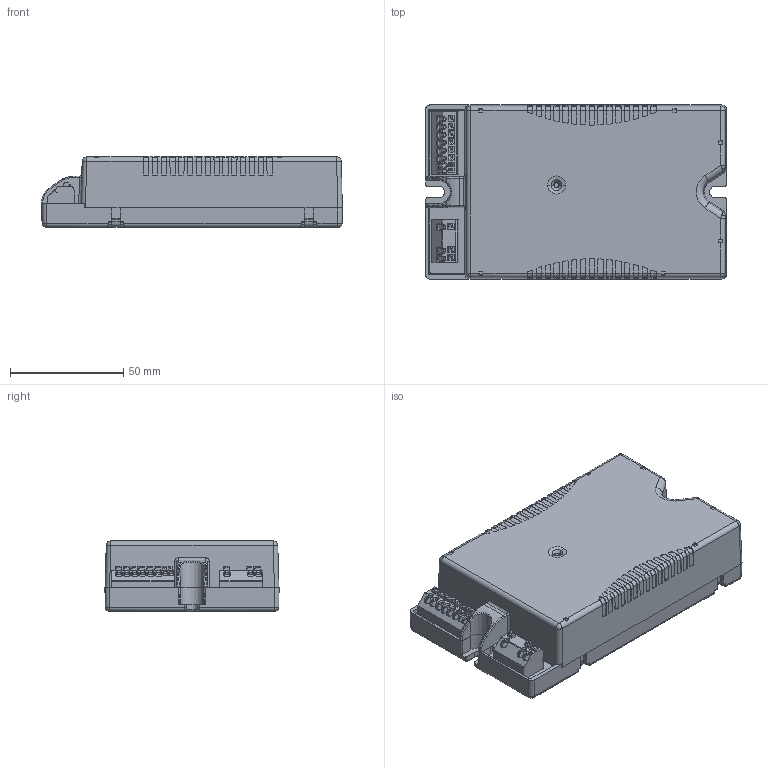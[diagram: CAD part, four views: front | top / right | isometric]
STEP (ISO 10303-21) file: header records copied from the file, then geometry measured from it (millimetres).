
FILE_DESCRIPTION((''),'2;1');
FILE_NAME('15013449','2021-01-12T16:40:14',('elon.guo'),(''),'CREO PARAMETRIC BY PTC INC, 2019164','CREO PARAMETRIC BY PTC INC, 2019164','');
FILE_SCHEMA(('CONFIG_CONTROL_DESIGN'));
Products named in the file (1): 15013449
Bounding box: 133.04 x 77.08 x 31 mm (x, y, z)
Volume: 67715.8 mm3; surface area: 85957.1 mm2
Topology: 1 solids, 3 shells, 3440 faces, 9660 edges, 6268 vertices
Faces by surface type: plane 1580, extrusion 796, cylinder 762, bspline 149, sphere 63, cone 61, torus 29
Entity records: 124357 total; most frequent: CARTESIAN_POINT 40209, ORIENTED_EDGE 19180, DIRECTION 14243, EDGE_CURVE 9590, VECTOR 6413, VERTEX_POINT 6268, LINE 5617, AXIS2_PLACEMENT_3D 3915
